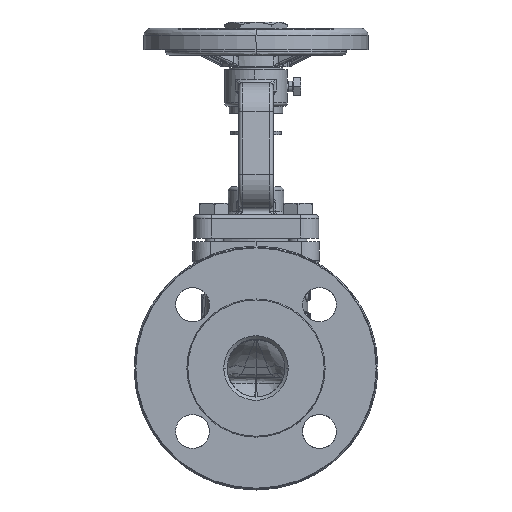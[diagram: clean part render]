
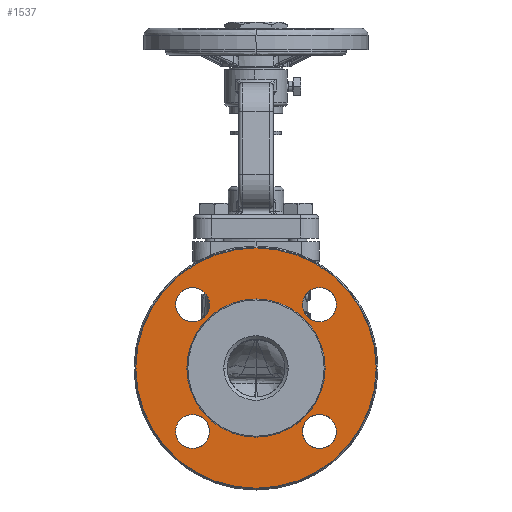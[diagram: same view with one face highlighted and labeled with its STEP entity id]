
A CAD part, left-side view. The second image highlights one B-rep face of the part: STEP entity #1537.
In plain terms, the highlighted planar face has unit normal (-1, 0, 0).
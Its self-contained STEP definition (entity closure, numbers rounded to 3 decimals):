
#1537=ADVANCED_FACE('',(#12826,#12827,#12828,#12829,#12830,#12831),#12825,.T.);
#12825=PLANE('',#37770);
#12826=FACE_OUTER_BOUND('',#37771,.T.);
#12827=FACE_BOUND('',#37772,.T.);
#12828=FACE_BOUND('',#37773,.T.);
#12829=FACE_BOUND('',#37774,.T.);
#12830=FACE_BOUND('',#37775,.T.);
#12831=FACE_BOUND('',#37776,.T.);
#37767=CARTESIAN_POINT('',(-78.,-77.034,-77.034));
#37768=DIRECTION('',(-1.,0.,0.));
#37769=DIRECTION('',(0.,0.,1.));
#37770=AXIS2_PLACEMENT_3D('',#37767,#37768,#37769);
#37771=EDGE_LOOP('',(#65551,#65552,#65553,#65554,#65555,#65556));
#37772=EDGE_LOOP('',(#65557,#65558));
#37773=EDGE_LOOP('',(#65559,#65560));
#37774=EDGE_LOOP('',(#65561,#65562));
#37775=EDGE_LOOP('',(#65563,#65564));
#37776=EDGE_LOOP('',(#65565,#65566));
#65551=ORIENTED_EDGE('',*,*,#71452,.T.);
#65552=ORIENTED_EDGE('',*,*,#71453,.T.);
#65553=ORIENTED_EDGE('',*,*,#71454,.F.);
#65554=ORIENTED_EDGE('',*,*,#71455,.T.);
#65555=ORIENTED_EDGE('',*,*,#71456,.T.);
#65556=ORIENTED_EDGE('',*,*,#71457,.F.);
#65557=ORIENTED_EDGE('',*,*,#71458,.F.);
#65558=ORIENTED_EDGE('',*,*,#71459,.F.);
#65559=ORIENTED_EDGE('',*,*,#71460,.F.);
#65560=ORIENTED_EDGE('',*,*,#71461,.F.);
#65561=ORIENTED_EDGE('',*,*,#71462,.F.);
#65562=ORIENTED_EDGE('',*,*,#71463,.F.);
#65563=ORIENTED_EDGE('',*,*,#71464,.F.);
#65564=ORIENTED_EDGE('',*,*,#71465,.F.);
#65565=ORIENTED_EDGE('',*,*,#71466,.F.);
#65566=ORIENTED_EDGE('',*,*,#71467,.F.);
#71452=EDGE_CURVE('',#90756,#90757,#90758,.T.);
#71453=EDGE_CURVE('',#90757,#90764,#90765,.T.);
#71454=EDGE_CURVE('',#90771,#90764,#90772,.T.);
#71455=EDGE_CURVE('',#90771,#90778,#90779,.T.);
#71456=EDGE_CURVE('',#90778,#90785,#90786,.T.);
#71457=EDGE_CURVE('',#90756,#90785,#90792,.T.);
#71458=EDGE_CURVE('',#90798,#90799,#90800,.T.);
#71459=EDGE_CURVE('',#90799,#90798,#90806,.T.);
#71460=EDGE_CURVE('',#90812,#90813,#90814,.T.);
#71461=EDGE_CURVE('',#90813,#90812,#90820,.T.);
#71462=EDGE_CURVE('',#90826,#90827,#90828,.T.);
#71463=EDGE_CURVE('',#90827,#90826,#90834,.T.);
#71464=EDGE_CURVE('',#90840,#90841,#90842,.T.);
#71465=EDGE_CURVE('',#90841,#90840,#90848,.T.);
#71466=EDGE_CURVE('',#90854,#90855,#90856,.T.);
#71467=EDGE_CURVE('',#90855,#90854,#90862,.T.);
#90756=VERTEX_POINT('',#116196);
#90757=VERTEX_POINT('',#116197);
#90758=LINE('',#116198,#116199);
#90764=VERTEX_POINT('',#116201);
#90765=LINE('',#116202,#116203);
#90771=VERTEX_POINT('',#116205);
#90772=CIRCLE('',#116209,67.034);
#90778=VERTEX_POINT('',#116210);
#90779=LINE('',#116211,#116212);
#90785=VERTEX_POINT('',#116214);
#90786=LINE('',#116215,#116216);
#90792=CIRCLE('',#116221,67.034);
#90798=VERTEX_POINT('',#116222);
#90799=VERTEX_POINT('',#116223);
#90800=CIRCLE('',#116227,9.5);
#90806=CIRCLE('',#116231,9.5);
#90812=VERTEX_POINT('',#116232);
#90813=VERTEX_POINT('',#116233);
#90814=(BOUNDED_CURVE() B_SPLINE_CURVE(2,(#116234,#116235,#116236,#116237,#116238),.UNSPECIFIED.,.F.,.F.) B_SPLINE_CURVE_WITH_KNOTS((3,2,3),(0.,0.5,1.),.UNSPECIFIED.) CURVE() GEOMETRIC_REPRESENTATION_ITEM() RATIONAL_B_SPLINE_CURVE((1.,0.707,1.,0.707,1.)) REPRESENTATION_ITEM('') );
#90820=(BOUNDED_CURVE() B_SPLINE_CURVE(2,(#116239,#116240,#116241,#116242,#116243),.UNSPECIFIED.,.F.,.F.) B_SPLINE_CURVE_WITH_KNOTS((3,2,3),(0.,0.5,1.),.UNSPECIFIED.) CURVE() GEOMETRIC_REPRESENTATION_ITEM() RATIONAL_B_SPLINE_CURVE((1.,0.707,1.,0.707,1.)) REPRESENTATION_ITEM('') );
#90826=VERTEX_POINT('',#116244);
#90827=VERTEX_POINT('',#116245);
#90828=CIRCLE('',#116249,9.5);
#90834=CIRCLE('',#116253,9.5);
#90840=VERTEX_POINT('',#116254);
#90841=VERTEX_POINT('',#116255);
#90842=(BOUNDED_CURVE() B_SPLINE_CURVE(2,(#116256,#116257,#116258,#116259,#116260),.UNSPECIFIED.,.F.,.F.) B_SPLINE_CURVE_WITH_KNOTS((3,2,3),(0.,0.5,1.),.UNSPECIFIED.) CURVE() GEOMETRIC_REPRESENTATION_ITEM() RATIONAL_B_SPLINE_CURVE((1.,0.707,1.,0.707,1.)) REPRESENTATION_ITEM('') );
#90848=(BOUNDED_CURVE() B_SPLINE_CURVE(2,(#116261,#116262,#116263,#116264,#116265),.UNSPECIFIED.,.F.,.F.) B_SPLINE_CURVE_WITH_KNOTS((3,2,3),(0.,0.5,1.),.UNSPECIFIED.) CURVE() GEOMETRIC_REPRESENTATION_ITEM() RATIONAL_B_SPLINE_CURVE((1.,0.707,1.,0.707,1.)) REPRESENTATION_ITEM('') );
#90854=VERTEX_POINT('',#116266);
#90855=VERTEX_POINT('',#116267);
#90856=CIRCLE('',#116271,38.536);
#90862=CIRCLE('',#116275,38.536);
#116196=CARTESIAN_POINT('',(-78.,-0.308,67.034));
#116197=CARTESIAN_POINT('',(-78.,0.,66.5));
#116198=CARTESIAN_POINT('',(-78.,-0.308,67.034));
#116199=VECTOR('',#116200,0.616);
#116200=DIRECTION('',(0.,0.5,-0.866));
#116201=CARTESIAN_POINT('',(-78.,0.308,67.034));
#116202=CARTESIAN_POINT('',(-78.,0.,66.5));
#116203=VECTOR('',#116204,0.616);
#116204=DIRECTION('',(0.,0.5,0.866));
#116205=CARTESIAN_POINT('',(-78.,0.308,-67.034));
#116206=CARTESIAN_POINT('',(-78.,0.,0.));
#116207=DIRECTION('',(1.,0.,0.));
#116208=DIRECTION('',(0.,0.,-1.));
#116209=AXIS2_PLACEMENT_3D('',#116206,#116207,#116208);
#116210=CARTESIAN_POINT('',(-78.,0.,-66.5));
#116211=CARTESIAN_POINT('',(-78.,0.308,-67.034));
#116212=VECTOR('',#116213,0.616);
#116213=DIRECTION('',(0.,-0.5,0.866));
#116214=CARTESIAN_POINT('',(-78.,-0.308,-67.034));
#116215=CARTESIAN_POINT('',(-78.,0.,-66.5));
#116216=VECTOR('',#116217,0.616);
#116217=DIRECTION('',(0.,-0.5,-0.866));
#116218=CARTESIAN_POINT('',(-78.,0.,0.));
#116219=DIRECTION('',(1.,0.,0.));
#116220=DIRECTION('',(0.,0.,-1.));
#116221=AXIS2_PLACEMENT_3D('',#116218,#116219,#116220);
#116222=CARTESIAN_POINT('',(-78.,35.357,25.855));
#116223=CARTESIAN_POINT('',(-78.,35.355,44.855));
#116224=CARTESIAN_POINT('',(-78.,35.355,35.355));
#116225=DIRECTION('',(-1.,0.,0.));
#116226=DIRECTION('',(0.,0.,1.));
#116227=AXIS2_PLACEMENT_3D('',#116224,#116225,#116226);
#116228=CARTESIAN_POINT('',(-78.,35.355,35.355));
#116229=DIRECTION('',(-1.,0.,0.));
#116230=DIRECTION('',(0.,0.,1.));
#116231=AXIS2_PLACEMENT_3D('',#116228,#116229,#116230);
#116232=CARTESIAN_POINT('',(-78.,35.347,-44.855));
#116233=CARTESIAN_POINT('',(-78.,35.364,-25.855));
#116234=CARTESIAN_POINT('',(-78.,35.347,-44.855));
#116235=CARTESIAN_POINT('',(-78.,25.851,-44.847));
#116236=CARTESIAN_POINT('',(-78.,25.855,-35.351));
#116237=CARTESIAN_POINT('',(-78.,25.86,-25.855));
#116238=CARTESIAN_POINT('',(-78.,35.364,-25.855));
#116239=CARTESIAN_POINT('',(-78.,35.364,-25.855));
#116240=CARTESIAN_POINT('',(-78.,44.86,-25.855));
#116241=CARTESIAN_POINT('',(-78.,44.855,-35.36));
#116242=CARTESIAN_POINT('',(-78.,44.851,-44.864));
#116243=CARTESIAN_POINT('',(-78.,35.347,-44.855));
#116244=CARTESIAN_POINT('',(-78.,-35.353,-44.855));
#116245=CARTESIAN_POINT('',(-78.,-35.355,-25.855));
#116246=CARTESIAN_POINT('',(-78.,-35.355,-35.355));
#116247=DIRECTION('',(-1.,0.,0.));
#116248=DIRECTION('',(0.,0.,1.));
#116249=AXIS2_PLACEMENT_3D('',#116246,#116247,#116248);
#116250=CARTESIAN_POINT('',(-78.,-35.355,-35.355));
#116251=DIRECTION('',(-1.,0.,0.));
#116252=DIRECTION('',(0.,0.,1.));
#116253=AXIS2_PLACEMENT_3D('',#116250,#116251,#116252);
#116254=CARTESIAN_POINT('',(-78.,-35.348,25.855));
#116255=CARTESIAN_POINT('',(-78.,-35.363,44.855));
#116256=CARTESIAN_POINT('',(-78.,-35.348,25.855));
#116257=CARTESIAN_POINT('',(-78.,-44.852,25.848));
#116258=CARTESIAN_POINT('',(-78.,-44.855,35.352));
#116259=CARTESIAN_POINT('',(-78.,-44.859,44.855));
#116260=CARTESIAN_POINT('',(-78.,-35.363,44.855));
#116261=CARTESIAN_POINT('',(-78.,-35.363,44.855));
#116262=CARTESIAN_POINT('',(-78.,-25.859,44.855));
#116263=CARTESIAN_POINT('',(-78.,-25.855,35.359));
#116264=CARTESIAN_POINT('',(-78.,-25.852,25.863));
#116265=CARTESIAN_POINT('',(-78.,-35.348,25.855));
#116266=CARTESIAN_POINT('',(-78.,0.,-38.536));
#116267=CARTESIAN_POINT('',(-78.,0.,38.536));
#116268=CARTESIAN_POINT('',(-78.,0.,0.));
#116269=DIRECTION('',(-1.,0.,0.));
#116270=DIRECTION('',(0.,0.,1.));
#116271=AXIS2_PLACEMENT_3D('',#116268,#116269,#116270);
#116272=CARTESIAN_POINT('',(-78.,0.,0.));
#116273=DIRECTION('',(-1.,0.,0.));
#116274=DIRECTION('',(0.,0.,1.));
#116275=AXIS2_PLACEMENT_3D('',#116272,#116273,#116274);
